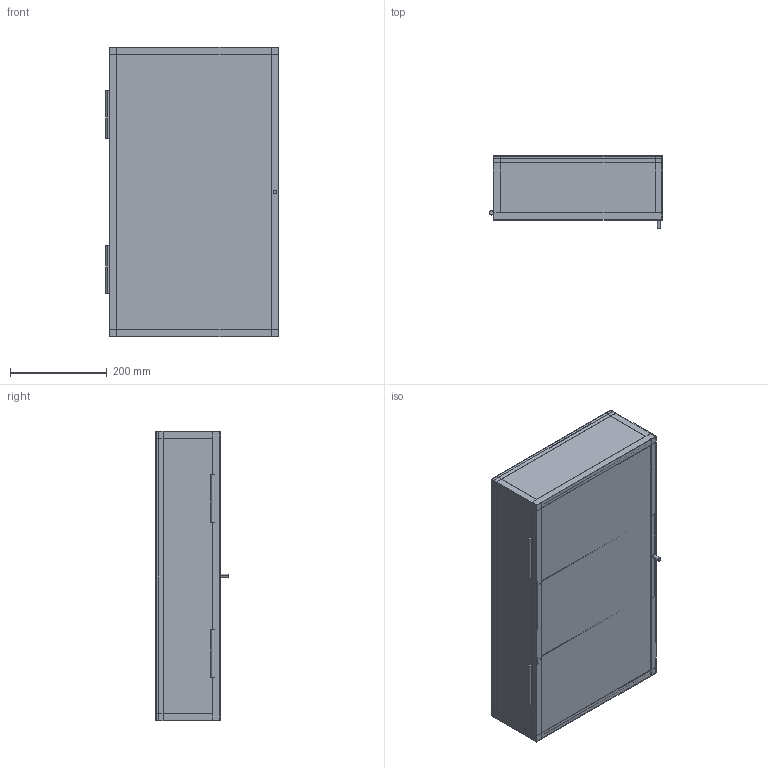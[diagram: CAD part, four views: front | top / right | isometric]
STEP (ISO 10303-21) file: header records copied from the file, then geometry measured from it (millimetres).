
FILE_DESCRIPTION(/* description */ (''),/* implementation_level */ '2;1');
FILE_NAME(/* name */ 'HQ6NKT~9',/* time_stamp */ '2018-04-06T14:28:44+02:00',/* author */ (''),/* organization */ (''),/* preprocessor_version */ 'ST-DEVELOPER v15',/* originating_system */ '',/* authorisation */ '');
FILE_SCHEMA (('AUTOMOTIVE_DESIGN'));
Length unit declared in the file: millimetre
Products named in the file (1): Document
Bounding box: 357.86 x 150 x 600 mm (x, y, z)
Volume: 1453045.4 mm3; surface area: 1578030.2 mm2
Topology: 22 solids, 22 shells, 213 faces, 458 edges, 288 vertices
Faces by surface type: bspline 213
Entity records: 10534 total; most frequent: CARTESIAN_POINT 4430, B_SPLINE_CURVE_WITH_KNOTS 1224, ORIENTED_EDGE 916, PCURVE 916, DEFINITIONAL_REPRESENTATION 916, SURFACE_CURVE 458, EDGE_CURVE 458, VERTEX_POINT 288
